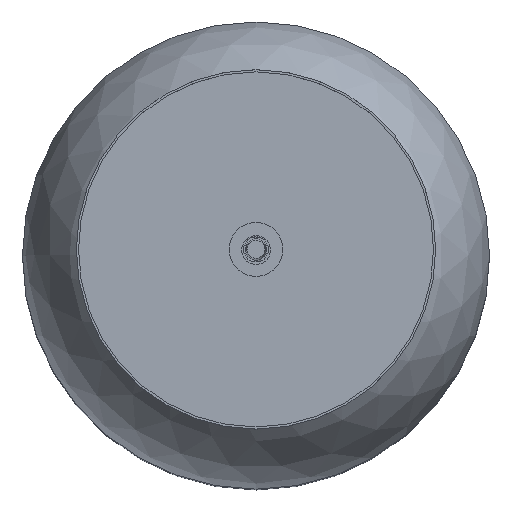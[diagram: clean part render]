
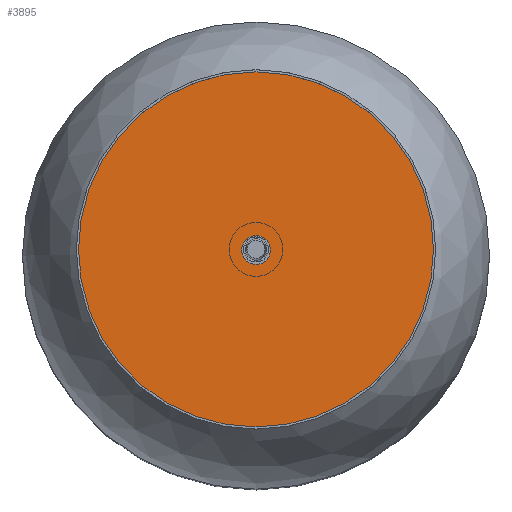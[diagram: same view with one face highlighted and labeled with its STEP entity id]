
A CAD part, top view. The second image highlights one B-rep face of the part: STEP entity #3895.
In plain terms, the highlighted planar face has unit normal (0, 0, 1).
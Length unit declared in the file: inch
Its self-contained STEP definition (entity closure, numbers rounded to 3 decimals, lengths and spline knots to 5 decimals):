
#357=FACE_BOUND('',#758,.T.);
#401=PLANE('',#4201);
#506=FACE_OUTER_BOUND('',#757,.T.);
#757=EDGE_LOOP('',(#2827));
#758=EDGE_LOOP('',(#2828));
#1407=CIRCLE('',#4196,0.2);
#1409=CIRCLE('',#4199,2.47);
#1577=VERTEX_POINT('',#8461);
#1579=VERTEX_POINT('',#8467);
#2038=EDGE_CURVE('',#1577,#1577,#1407,.T.);
#2041=EDGE_CURVE('',#1579,#1579,#1409,.F.);
#2827=ORIENTED_EDGE('',*,*,#2041,.T.);
#2828=ORIENTED_EDGE('',*,*,#2038,.T.);
#3895=ADVANCED_FACE('',(#506,#357),#401,.T.);
#4196=AXIS2_PLACEMENT_3D('',#8462,#4723,#4724);
#4199=AXIS2_PLACEMENT_3D('',#8468,#4730,#4731);
#4201=AXIS2_PLACEMENT_3D('',#8472,#4735,#4736);
#4723=DIRECTION('center_axis',(0.,0.,-1.));
#4724=DIRECTION('ref_axis',(1.,0.,0.));
#4730=DIRECTION('center_axis',(0.,0.,-1.));
#4731=DIRECTION('ref_axis',(1.,0.,0.));
#4735=DIRECTION('center_axis',(0.,0.,1.));
#4736=DIRECTION('ref_axis',(1.,0.,0.));
#8461=CARTESIAN_POINT('',(-0.19813,-0.00889,47.73));
#8462=CARTESIAN_POINT('Origin',(0.00187,-0.00889,
47.73));
#8467=CARTESIAN_POINT('',(-2.47,0.,47.73));
#8468=CARTESIAN_POINT('Origin',(0.,0.,47.73));
#8472=CARTESIAN_POINT('Origin',(0.,0.,47.73));
